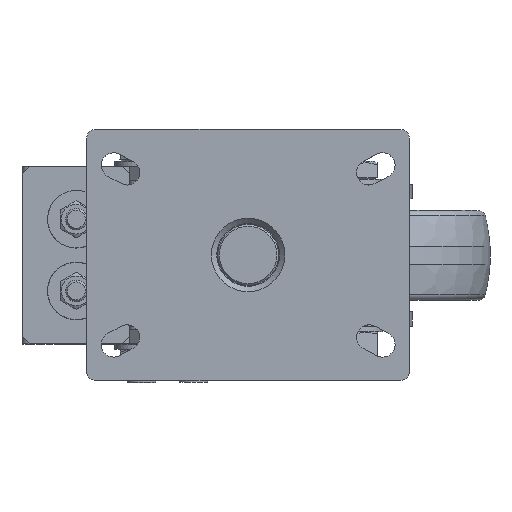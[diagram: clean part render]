
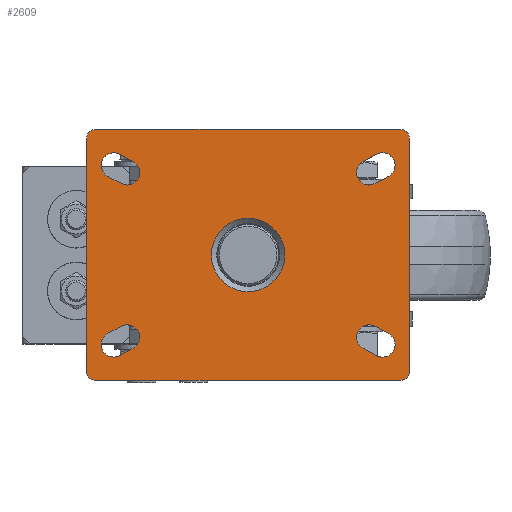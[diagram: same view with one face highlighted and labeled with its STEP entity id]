
A CAD part, top view. The second image highlights one B-rep face of the part: STEP entity #2609.
In plain terms, the highlighted planar face has unit normal (0, 0, 1).
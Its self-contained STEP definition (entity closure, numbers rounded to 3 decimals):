
#742=LINE('',#16067,#1378);
#743=LINE('',#16068,#1379);
#744=LINE('',#16069,#1380);
#745=LINE('',#16070,#1381);
#746=LINE('',#16074,#1382);
#747=LINE('',#16078,#1383);
#748=LINE('',#16082,#1384);
#749=LINE('',#16086,#1385);
#750=LINE('',#16090,#1386);
#751=LINE('',#16094,#1387);
#752=LINE('',#16098,#1388);
#753=LINE('',#16102,#1389);
#1378=VECTOR('',#12660,1.);
#1379=VECTOR('',#12661,1.);
#1380=VECTOR('',#12662,1.);
#1381=VECTOR('',#12663,1.);
#1382=VECTOR('',#12666,1.);
#1383=VECTOR('',#12669,1.);
#1384=VECTOR('',#12672,1.);
#1385=VECTOR('',#12675,1.);
#1386=VECTOR('',#12678,1.);
#1387=VECTOR('',#12681,1.);
#1388=VECTOR('',#12684,1.);
#1389=VECTOR('',#12687,1.);
#2609=ADVANCED_FACE('',(#3604,#3605,#3606,#3607,#3608,#3609),#3131,.T.);
#3131=PLANE('',#10906);
#3604=FACE_BOUND('',#4250,.T.);
#3605=FACE_BOUND('',#4251,.T.);
#3606=FACE_BOUND('',#4252,.T.);
#3607=FACE_BOUND('',#4253,.T.);
#3608=FACE_BOUND('',#4254,.T.);
#3609=FACE_BOUND('',#4255,.T.);
#4250=EDGE_LOOP('',(#5866));
#4251=EDGE_LOOP('',(#5867,#5868,#5869,#5870,#5871,#5872,#5873,#5874));
#4252=EDGE_LOOP('',(#5875,#5876,#5877,#5878));
#4253=EDGE_LOOP('',(#5879,#5880,#5881,#5882));
#4254=EDGE_LOOP('',(#5883,#5884,#5885,#5886));
#4255=EDGE_LOOP('',(#5887,#5888,#5889,#5890));
#5866=ORIENTED_EDGE('',*,*,#9160,.T.);
#5867=ORIENTED_EDGE('',*,*,#9167,.T.);
#5868=ORIENTED_EDGE('',*,*,#9158,.T.);
#5869=ORIENTED_EDGE('',*,*,#9168,.T.);
#5870=ORIENTED_EDGE('',*,*,#9154,.T.);
#5871=ORIENTED_EDGE('',*,*,#9169,.T.);
#5872=ORIENTED_EDGE('',*,*,#9146,.T.);
#5873=ORIENTED_EDGE('',*,*,#9170,.T.);
#5874=ORIENTED_EDGE('',*,*,#9150,.T.);
#5875=ORIENTED_EDGE('',*,*,#9171,.F.);
#5876=ORIENTED_EDGE('',*,*,#9172,.F.);
#5877=ORIENTED_EDGE('',*,*,#9173,.F.);
#5878=ORIENTED_EDGE('',*,*,#9174,.F.);
#5879=ORIENTED_EDGE('',*,*,#9175,.T.);
#5880=ORIENTED_EDGE('',*,*,#9176,.T.);
#5881=ORIENTED_EDGE('',*,*,#9177,.T.);
#5882=ORIENTED_EDGE('',*,*,#9178,.T.);
#5883=ORIENTED_EDGE('',*,*,#9179,.T.);
#5884=ORIENTED_EDGE('',*,*,#9180,.T.);
#5885=ORIENTED_EDGE('',*,*,#9181,.T.);
#5886=ORIENTED_EDGE('',*,*,#9182,.T.);
#5887=ORIENTED_EDGE('',*,*,#9183,.F.);
#5888=ORIENTED_EDGE('',*,*,#9184,.F.);
#5889=ORIENTED_EDGE('',*,*,#9185,.F.);
#5890=ORIENTED_EDGE('',*,*,#9186,.F.);
#7994=VERTEX_POINT('',#16016);
#7995=VERTEX_POINT('',#16018);
#7998=VERTEX_POINT('',#16025);
#7999=VERTEX_POINT('',#16027);
#8002=VERTEX_POINT('',#16034);
#8003=VERTEX_POINT('',#16036);
#8006=VERTEX_POINT('',#16043);
#8007=VERTEX_POINT('',#16045);
#8008=VERTEX_POINT('',#16049);
#8015=VERTEX_POINT('',#16072);
#8016=VERTEX_POINT('',#16073);
#8017=VERTEX_POINT('',#16075);
#8018=VERTEX_POINT('',#16077);
#8019=VERTEX_POINT('',#16080);
#8020=VERTEX_POINT('',#16081);
#8021=VERTEX_POINT('',#16083);
#8022=VERTEX_POINT('',#16085);
#8023=VERTEX_POINT('',#16088);
#8024=VERTEX_POINT('',#16089);
#8025=VERTEX_POINT('',#16091);
#8026=VERTEX_POINT('',#16093);
#8027=VERTEX_POINT('',#16096);
#8028=VERTEX_POINT('',#16097);
#8029=VERTEX_POINT('',#16099);
#8030=VERTEX_POINT('',#16101);
#9146=EDGE_CURVE('',#7995,#7994,#10214,.T.);
#9150=EDGE_CURVE('',#7999,#7998,#10216,.T.);
#9154=EDGE_CURVE('',#8003,#8002,#10218,.T.);
#9158=EDGE_CURVE('',#8007,#8006,#10220,.T.);
#9160=EDGE_CURVE('',#8008,#8008,#10221,.T.);
#9167=EDGE_CURVE('',#7998,#8007,#742,.T.);
#9168=EDGE_CURVE('',#8006,#8003,#743,.T.);
#9169=EDGE_CURVE('',#8002,#7995,#744,.T.);
#9170=EDGE_CURVE('',#7994,#7999,#745,.T.);
#9171=EDGE_CURVE('',#8015,#8016,#10228,.T.);
#9172=EDGE_CURVE('',#8017,#8015,#746,.T.);
#9173=EDGE_CURVE('',#8018,#8017,#10229,.T.);
#9174=EDGE_CURVE('',#8016,#8018,#747,.T.);
#9175=EDGE_CURVE('',#8019,#8020,#10230,.T.);
#9176=EDGE_CURVE('',#8020,#8021,#748,.T.);
#9177=EDGE_CURVE('',#8021,#8022,#10231,.T.);
#9178=EDGE_CURVE('',#8022,#8019,#749,.T.);
#9179=EDGE_CURVE('',#8023,#8024,#10232,.T.);
#9180=EDGE_CURVE('',#8024,#8025,#750,.T.);
#9181=EDGE_CURVE('',#8025,#8026,#10233,.T.);
#9182=EDGE_CURVE('',#8026,#8023,#751,.T.);
#9183=EDGE_CURVE('',#8027,#8028,#10234,.T.);
#9184=EDGE_CURVE('',#8029,#8027,#752,.T.);
#9185=EDGE_CURVE('',#8030,#8029,#10235,.T.);
#9186=EDGE_CURVE('',#8028,#8030,#753,.T.);
#10214=CIRCLE('',#10875,5.);
#10216=CIRCLE('',#10878,5.);
#10218=CIRCLE('',#10881,5.);
#10220=CIRCLE('',#10884,5.);
#10221=CIRCLE('',#10886,20.5);
#10228=CIRCLE('',#10898,7.);
#10229=CIRCLE('',#10899,7.);
#10230=CIRCLE('',#10900,7.);
#10231=CIRCLE('',#10901,7.);
#10232=CIRCLE('',#10902,7.);
#10233=CIRCLE('',#10903,7.);
#10234=CIRCLE('',#10904,7.);
#10235=CIRCLE('',#10905,7.);
#10875=AXIS2_PLACEMENT_3D('',#16017,#12607,#12608);
#10878=AXIS2_PLACEMENT_3D('',#16026,#12615,#12616);
#10881=AXIS2_PLACEMENT_3D('',#16035,#12623,#12624);
#10884=AXIS2_PLACEMENT_3D('',#16044,#12631,#12632);
#10886=AXIS2_PLACEMENT_3D('',#16048,#12636,#12637);
#10898=AXIS2_PLACEMENT_3D('',#16071,#12664,#12665);
#10899=AXIS2_PLACEMENT_3D('',#16076,#12667,#12668);
#10900=AXIS2_PLACEMENT_3D('',#16079,#12670,#12671);
#10901=AXIS2_PLACEMENT_3D('',#16084,#12673,#12674);
#10902=AXIS2_PLACEMENT_3D('',#16087,#12676,#12677);
#10903=AXIS2_PLACEMENT_3D('',#16092,#12679,#12680);
#10904=AXIS2_PLACEMENT_3D('',#16095,#12682,#12683);
#10905=AXIS2_PLACEMENT_3D('',#16100,#12685,#12686);
#10906=AXIS2_PLACEMENT_3D('',#16103,#12688,#12689);
#12607=DIRECTION('',(0.,0.,1.));
#12608=DIRECTION('',(-1.,0.,0.));
#12615=DIRECTION('',(0.,0.,1.));
#12616=DIRECTION('',(-1.,0.,0.));
#12623=DIRECTION('',(0.,0.,1.));
#12624=DIRECTION('',(-1.,0.,0.));
#12631=DIRECTION('',(0.,0.,1.));
#12632=DIRECTION('',(-1.,0.,0.));
#12636=DIRECTION('',(0.,0.,-1.));
#12637=DIRECTION('',(-1.,0.,0.));
#12660=DIRECTION('',(0.,-1.,0.));
#12661=DIRECTION('',(1.,0.,0.));
#12662=DIRECTION('',(0.,1.,0.));
#12663=DIRECTION('',(-1.,0.,0.));
#12664=DIRECTION('',(0.,0.,1.));
#12665=DIRECTION('',(1.,0.,0.));
#12666=DIRECTION('',(-0.882,0.471,0.));
#12667=DIRECTION('',(0.,0.,1.));
#12668=DIRECTION('',(1.,0.,0.));
#12669=DIRECTION('',(0.882,-0.471,0.));
#12670=DIRECTION('',(0.,0.,-1.));
#12671=DIRECTION('',(1.,0.,0.));
#12672=DIRECTION('',(0.882,0.471,0.));
#12673=DIRECTION('',(0.,0.,-1.));
#12674=DIRECTION('',(1.,0.,0.));
#12675=DIRECTION('',(-0.882,-0.471,0.));
#12676=DIRECTION('',(0.,0.,-1.));
#12677=DIRECTION('',(-1.,0.,0.));
#12678=DIRECTION('',(0.882,0.471,0.));
#12679=DIRECTION('',(0.,0.,-1.));
#12680=DIRECTION('',(-1.,0.,0.));
#12681=DIRECTION('',(-0.882,-0.471,0.));
#12682=DIRECTION('',(0.,0.,1.));
#12683=DIRECTION('',(-1.,0.,0.));
#12684=DIRECTION('',(-0.882,0.471,0.));
#12685=DIRECTION('',(0.,0.,1.));
#12686=DIRECTION('',(-1.,0.,0.));
#12687=DIRECTION('',(0.882,-0.471,0.));
#12688=DIRECTION('',(0.,0.,1.));
#12689=DIRECTION('',(-1.,0.,0.));
#16016=CARTESIAN_POINT('',(85.,70.,-35.362));
#16017=CARTESIAN_POINT('',(85.,65.,-35.362));
#16018=CARTESIAN_POINT('',(90.,65.,-35.362));
#16025=CARTESIAN_POINT('',(-90.,65.,-35.362));
#16026=CARTESIAN_POINT('',(-85.,65.,-35.362));
#16027=CARTESIAN_POINT('',(-85.,70.,-35.362));
#16034=CARTESIAN_POINT('',(90.,-65.,-35.362));
#16035=CARTESIAN_POINT('',(85.,-65.,-35.362));
#16036=CARTESIAN_POINT('',(85.,-70.,-35.362));
#16043=CARTESIAN_POINT('',(-85.,-70.,-35.362));
#16044=CARTESIAN_POINT('',(-85.,-65.,-35.362));
#16045=CARTESIAN_POINT('',(-90.,-65.,-35.362));
#16048=CARTESIAN_POINT('',(0.,0.,-35.362));
#16049=CARTESIAN_POINT('',(-20.5,0.,-35.362));
#16067=CARTESIAN_POINT('',(-90.,70.,-35.362));
#16068=CARTESIAN_POINT('',(-90.,-70.,-35.362));
#16069=CARTESIAN_POINT('',(90.,-70.,-35.362));
#16070=CARTESIAN_POINT('',(90.,70.,-35.362));
#16071=CARTESIAN_POINT('',(-75.,50.,-35.362));
#16072=CARTESIAN_POINT('',(-71.706,56.176,-35.362));
#16073=CARTESIAN_POINT('',(-78.294,43.824,-35.362));
#16074=CARTESIAN_POINT('',(-64.206,52.176,-35.362));
#16075=CARTESIAN_POINT('',(-64.206,52.176,-35.362));
#16076=CARTESIAN_POINT('',(-67.5,46.,-35.362));
#16077=CARTESIAN_POINT('',(-70.794,39.824,-35.362));
#16078=CARTESIAN_POINT('',(-78.294,43.824,-35.362));
#16079=CARTESIAN_POINT('',(-75.,-50.,-35.362));
#16080=CARTESIAN_POINT('',(-71.706,-56.176,-35.362));
#16081=CARTESIAN_POINT('',(-78.294,-43.824,-35.362));
#16082=CARTESIAN_POINT('',(-78.294,-43.824,-35.362));
#16083=CARTESIAN_POINT('',(-70.794,-39.824,-35.362));
#16084=CARTESIAN_POINT('',(-67.5,-46.,-35.362));
#16085=CARTESIAN_POINT('',(-64.206,-52.176,-35.362));
#16086=CARTESIAN_POINT('',(-64.206,-52.176,-35.362));
#16087=CARTESIAN_POINT('',(67.5,46.,-35.362));
#16088=CARTESIAN_POINT('',(70.794,39.824,-35.362));
#16089=CARTESIAN_POINT('',(64.206,52.176,-35.362));
#16090=CARTESIAN_POINT('',(64.206,52.176,-35.362));
#16091=CARTESIAN_POINT('',(71.706,56.176,-35.362));
#16092=CARTESIAN_POINT('',(75.,50.,-35.362));
#16093=CARTESIAN_POINT('',(78.294,43.824,-35.362));
#16094=CARTESIAN_POINT('',(78.294,43.824,-35.362));
#16095=CARTESIAN_POINT('',(67.5,-46.,-35.362));
#16096=CARTESIAN_POINT('',(70.794,-39.824,-35.362));
#16097=CARTESIAN_POINT('',(64.206,-52.176,-35.362));
#16098=CARTESIAN_POINT('',(78.294,-43.824,-35.362));
#16099=CARTESIAN_POINT('',(78.294,-43.824,-35.362));
#16100=CARTESIAN_POINT('',(75.,-50.,-35.362));
#16101=CARTESIAN_POINT('',(71.706,-56.176,-35.362));
#16102=CARTESIAN_POINT('',(64.206,-52.176,-35.362));
#16103=CARTESIAN_POINT('',(-75.,50.,-35.362));
